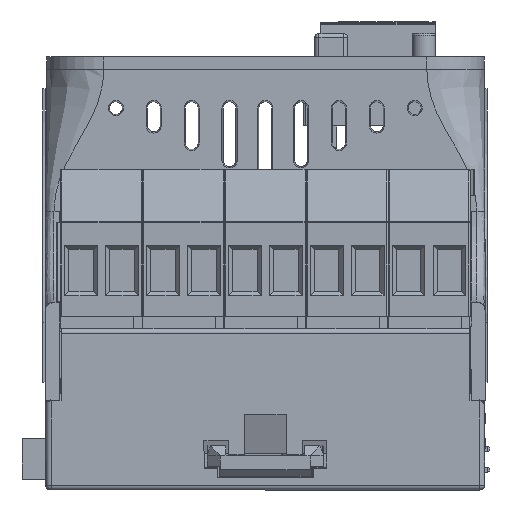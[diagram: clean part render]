
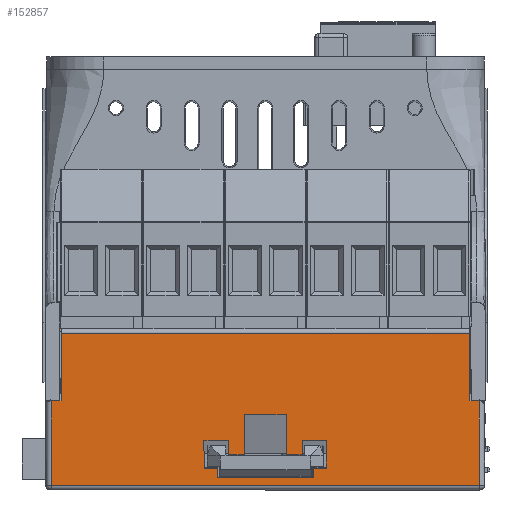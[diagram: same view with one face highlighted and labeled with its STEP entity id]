
A CAD part, front view. The second image highlights one B-rep face of the part: STEP entity #152857.
In plain terms, the highlighted planar face has unit normal (0, -1, 0).
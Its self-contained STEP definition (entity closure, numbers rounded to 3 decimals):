
#2231=FACE_BOUND('',#64118,.T.);
#11943=PLANE('',#161647);
#20823=LINE('',#228732,#38991);
#20971=LINE('',#230574,#39139);
#20995=LINE('',#230850,#39163);
#20996=LINE('',#230855,#39164);
#21051=LINE('',#231005,#39219);
#21093=LINE('',#231086,#39261);
#21102=LINE('',#231104,#39270);
#21121=LINE('',#231145,#39289);
#21142=LINE('',#231187,#39310);
#21144=LINE('',#231192,#39312);
#21963=LINE('',#233250,#40131);
#21964=LINE('',#233253,#40132);
#21966=LINE('',#233257,#40134);
#21968=LINE('',#233261,#40136);
#21971=LINE('',#233266,#40139);
#21972=LINE('',#233268,#40140);
#21974=LINE('',#233272,#40142);
#21976=LINE('',#233276,#40144);
#21977=LINE('',#233279,#40145);
#21979=LINE('',#233282,#40147);
#21981=LINE('',#233287,#40149);
#21983=LINE('',#233290,#40151);
#21984=LINE('',#233293,#40152);
#21985=LINE('',#233295,#40153);
#21986=LINE('',#233297,#40154);
#21987=LINE('',#233299,#40155);
#38991=VECTOR('',#177262,1.);
#39139=VECTOR('',#177682,1.);
#39163=VECTOR('',#177744,1.);
#39164=VECTOR('',#177751,1.);
#39219=VECTOR('',#177880,1.);
#39261=VECTOR('',#177954,1.);
#39270=VECTOR('',#177967,1.);
#39289=VECTOR('',#177992,1.);
#39310=VECTOR('',#178019,1.);
#39312=VECTOR('',#178023,1.);
#40131=VECTOR('',#179874,1.);
#40132=VECTOR('',#179877,1.);
#40134=VECTOR('',#179881,1.);
#40136=VECTOR('',#179885,1.);
#40139=VECTOR('',#179890,1.);
#40140=VECTOR('',#179893,1.);
#40142=VECTOR('',#179897,1.);
#40144=VECTOR('',#179901,1.);
#40145=VECTOR('',#179904,1.);
#40147=VECTOR('',#179908,1.);
#40149=VECTOR('',#179914,1.);
#40151=VECTOR('',#179918,1.);
#40152=VECTOR('',#179923,1.);
#40153=VECTOR('',#179926,1.);
#40154=VECTOR('',#179929,1.);
#40155=VECTOR('',#179932,1.);
#56097=FACE_OUTER_BOUND('',#64117,.T.);
#64117=EDGE_LOOP('',(#120824,#120825,#120826,#120827,#120828,#120829,#120830,
#120831,#120832,#120833));
#64118=EDGE_LOOP('',(#120834,#120835,#120836,#120837,#120838,#120839,#120840,
#120841,#120842,#120843,#120844,#120845,#120846,#120847,#120848,#120849));
#75726=VERTEX_POINT('',#227924);
#75813=VERTEX_POINT('',#228731);
#75945=VERTEX_POINT('',#230552);
#75947=VERTEX_POINT('',#230573);
#75969=VERTEX_POINT('',#230849);
#75970=VERTEX_POINT('',#230853);
#76027=VERTEX_POINT('',#231002);
#76028=VERTEX_POINT('',#231004);
#76050=VERTEX_POINT('',#231083);
#76051=VERTEX_POINT('',#231085);
#76057=VERTEX_POINT('',#231101);
#76058=VERTEX_POINT('',#231103);
#76076=VERTEX_POINT('',#231142);
#76077=VERTEX_POINT('',#231144);
#76095=VERTEX_POINT('',#231185);
#76097=VERTEX_POINT('',#231191);
#76671=VERTEX_POINT('',#233189);
#76675=VERTEX_POINT('',#233222);
#76676=VERTEX_POINT('',#233248);
#76677=VERTEX_POINT('',#233252);
#76678=VERTEX_POINT('',#233256);
#76679=VERTEX_POINT('',#233260);
#76680=VERTEX_POINT('',#233264);
#76681=VERTEX_POINT('',#233270);
#76682=VERTEX_POINT('',#233274);
#76683=VERTEX_POINT('',#233278);
#91495=EDGE_CURVE('',#75813,#75726,#20823,.T.);
#91736=EDGE_CURVE('',#75947,#75945,#20971,.T.);
#91776=EDGE_CURVE('',#75969,#75813,#20995,.T.);
#91779=EDGE_CURVE('',#75945,#75970,#20996,.T.);
#91855=EDGE_CURVE('',#76028,#76027,#21051,.T.);
#91898=EDGE_CURVE('',#76051,#76050,#21093,.T.);
#91907=EDGE_CURVE('',#76057,#76058,#21102,.T.);
#91928=EDGE_CURVE('',#76076,#76077,#21121,.T.);
#91951=EDGE_CURVE('',#76050,#76095,#21142,.T.);
#91953=EDGE_CURVE('',#76097,#76051,#21144,.T.);
#92929=EDGE_CURVE('',#76076,#76676,#21963,.T.);
#92930=EDGE_CURVE('',#76077,#76677,#21964,.T.);
#92932=EDGE_CURVE('',#76678,#76677,#21966,.T.);
#92934=EDGE_CURVE('',#76679,#76097,#21968,.T.);
#92937=EDGE_CURVE('',#76680,#76679,#21971,.T.);
#92938=EDGE_CURVE('',#76680,#76057,#21972,.T.);
#92940=EDGE_CURVE('',#76681,#76058,#21974,.T.);
#92942=EDGE_CURVE('',#76681,#76682,#21976,.T.);
#92943=EDGE_CURVE('',#76683,#76682,#21977,.T.);
#92945=EDGE_CURVE('',#76683,#76676,#21979,.T.);
#92947=EDGE_CURVE('',#76027,#75969,#21981,.T.);
#92949=EDGE_CURVE('',#76028,#75970,#21983,.T.);
#92950=EDGE_CURVE('',#76671,#75947,#21984,.T.);
#92951=EDGE_CURVE('',#76675,#76671,#21985,.T.);
#92952=EDGE_CURVE('',#75726,#76675,#21986,.T.);
#92953=EDGE_CURVE('',#76095,#76678,#21987,.T.);
#120824=ORIENTED_EDGE('',*,*,#92952,.T.);
#120825=ORIENTED_EDGE('',*,*,#92951,.T.);
#120826=ORIENTED_EDGE('',*,*,#92950,.T.);
#120827=ORIENTED_EDGE('',*,*,#91736,.T.);
#120828=ORIENTED_EDGE('',*,*,#91779,.T.);
#120829=ORIENTED_EDGE('',*,*,#92949,.F.);
#120830=ORIENTED_EDGE('',*,*,#91855,.T.);
#120831=ORIENTED_EDGE('',*,*,#92947,.T.);
#120832=ORIENTED_EDGE('',*,*,#91776,.T.);
#120833=ORIENTED_EDGE('',*,*,#91495,.T.);
#120834=ORIENTED_EDGE('',*,*,#92945,.F.);
#120835=ORIENTED_EDGE('',*,*,#92943,.T.);
#120836=ORIENTED_EDGE('',*,*,#92942,.F.);
#120837=ORIENTED_EDGE('',*,*,#92940,.T.);
#120838=ORIENTED_EDGE('',*,*,#91907,.F.);
#120839=ORIENTED_EDGE('',*,*,#92938,.F.);
#120840=ORIENTED_EDGE('',*,*,#92937,.T.);
#120841=ORIENTED_EDGE('',*,*,#92934,.T.);
#120842=ORIENTED_EDGE('',*,*,#91953,.T.);
#120843=ORIENTED_EDGE('',*,*,#91898,.T.);
#120844=ORIENTED_EDGE('',*,*,#91951,.T.);
#120845=ORIENTED_EDGE('',*,*,#92953,.T.);
#120846=ORIENTED_EDGE('',*,*,#92932,.T.);
#120847=ORIENTED_EDGE('',*,*,#92930,.F.);
#120848=ORIENTED_EDGE('',*,*,#91928,.F.);
#120849=ORIENTED_EDGE('',*,*,#92929,.T.);
#152857=ADVANCED_FACE('',(#56097,#2231),#11943,.F.);
#161647=AXIS2_PLACEMENT_3D('',#233300,#179933,#179934);
#177262=DIRECTION('',(-1.,0.,0.));
#177682=DIRECTION('',(-1.,0.,0.));
#177744=DIRECTION('',(-1.,0.,0.));
#177751=DIRECTION('',(-1.,0.,0.));
#177880=DIRECTION('',(-1.,0.,0.));
#177954=DIRECTION('',(1.,0.,0.));
#177967=DIRECTION('',(0.009,0.,-1.));
#177992=DIRECTION('',(0.009,0.,1.));
#178019=DIRECTION('',(0.,0.,-1.));
#178023=DIRECTION('',(0.,0.,1.));
#179874=DIRECTION('',(-1.,0.,0.));
#179877=DIRECTION('',(-1.,0.,-0.009));
#179881=DIRECTION('',(-0.009,0.,1.));
#179885=DIRECTION('',(1.,0.,0.));
#179890=DIRECTION('',(-0.009,0.,-1.));
#179893=DIRECTION('',(-1.,0.,0.009));
#179897=DIRECTION('',(-1.,0.,0.));
#179901=DIRECTION('',(0.009,0.,-1.));
#179904=DIRECTION('',(-1.,0.,0.));
#179908=DIRECTION('',(0.009,0.,1.));
#179914=DIRECTION('',(0.,0.,-1.));
#179918=DIRECTION('',(0.,0.,-1.));
#179923=DIRECTION('',(0.,0.,1.));
#179926=DIRECTION('',(1.,0.,0.));
#179929=DIRECTION('',(0.,0.,-1.));
#179932=DIRECTION('',(1.,0.,0.));
#179933=DIRECTION('center_axis',(0.,1.,0.));
#179934=DIRECTION('ref_axis',(0.,0.,
1.));
#227924=CARTESIAN_POINT('',(-26.15,-44.622,4.871));
#228731=CARTESIAN_POINT('',(-25.14,-44.622,4.871));
#228732=CARTESIAN_POINT('',(-25.908,-44.622,4.871));
#230552=CARTESIAN_POINT('',(25.14,-44.622,4.871));
#230573=CARTESIAN_POINT('',(26.15,-44.622,4.871));
#230574=CARTESIAN_POINT('',(25.908,-44.622,4.871));
#230849=CARTESIAN_POINT('',(-24.941,-44.622,4.871));
#230850=CARTESIAN_POINT('',(-25.908,-44.622,4.871));
#230853=CARTESIAN_POINT('',(24.941,-44.622,4.871));
#230855=CARTESIAN_POINT('',(25.908,-44.622,4.871));
#231002=CARTESIAN_POINT('',(-24.941,-44.622,13.156));
#231004=CARTESIAN_POINT('',(24.941,-44.622,13.156));
#231005=CARTESIAN_POINT('',(38.979,-44.622,13.156));
#231083=CARTESIAN_POINT('',(2.55,-44.622,3.175));
#231085=CARTESIAN_POINT('',(-2.55,-44.622,3.175));
#231086=CARTESIAN_POINT('',(38.979,-44.622,3.175));
#231101=CARTESIAN_POINT('',(-7.496,-44.622,0.011));
#231103=CARTESIAN_POINT('',(-7.467,-44.622,-3.32));
#231104=CARTESIAN_POINT('',(-7.645,-44.622,17.1));
#231142=CARTESIAN_POINT('',(7.467,-44.622,-3.32));
#231144=CARTESIAN_POINT('',(7.496,-44.622,0.011));
#231145=CARTESIAN_POINT('',(7.645,-44.622,17.1));
#231185=CARTESIAN_POINT('',(2.55,-44.622,-1.725));
#231187=CARTESIAN_POINT('',(2.55,-44.622,6.016));
#231191=CARTESIAN_POINT('',(-2.55,-44.622,-1.725));
#231192=CARTESIAN_POINT('',(-2.55,-44.622,6.016));
#233189=CARTESIAN_POINT('',(26.15,-44.622,-5.4));
#233222=CARTESIAN_POINT('',(-26.15,-44.622,-5.4));
#233248=CARTESIAN_POINT('',(5.867,-44.622,-3.32));
#233250=CARTESIAN_POINT('',(3.728,-44.622,-3.32));
#233252=CARTESIAN_POINT('',(4.483,-44.622,-0.015));
#233253=CARTESIAN_POINT('',(3.784,-44.622,-0.021));
#233256=CARTESIAN_POINT('',(4.498,-44.622,-1.725));
#233257=CARTESIAN_POINT('',(4.443,-44.622,4.558));
#233260=CARTESIAN_POINT('',(-4.498,-44.622,-1.725));
#233261=CARTESIAN_POINT('',(38.979,-44.622,-1.725));
#233264=CARTESIAN_POINT('',(-4.483,-44.622,-0.015));
#233266=CARTESIAN_POINT('',(-4.443,-44.622,4.558));
#233268=CARTESIAN_POINT('',(-3.784,-44.622,-0.021));
#233270=CARTESIAN_POINT('',(-5.867,-44.622,-3.32));
#233272=CARTESIAN_POINT('',(-3.728,-44.622,-3.32));
#233274=CARTESIAN_POINT('',(-5.857,-44.622,-4.5));
#233276=CARTESIAN_POINT('',(-5.855,-44.622,-4.646));
#233278=CARTESIAN_POINT('',(5.857,-44.622,-4.5));
#233279=CARTESIAN_POINT('',(38.979,-44.622,-4.5));
#233282=CARTESIAN_POINT('',(5.855,-44.622,-4.646));
#233287=CARTESIAN_POINT('',(-24.941,-44.622,17.506));
#233290=CARTESIAN_POINT('',(24.941,-44.622,17.506));
#233293=CARTESIAN_POINT('',(26.15,-44.622,17.506));
#233295=CARTESIAN_POINT('',(26.15,-44.622,-5.4));
#233297=CARTESIAN_POINT('',(-26.15,-44.622,17.506));
#233299=CARTESIAN_POINT('',(-38.979,-44.622,-1.725));
#233300=CARTESIAN_POINT('Origin',(38.979,-44.622,17.506));
